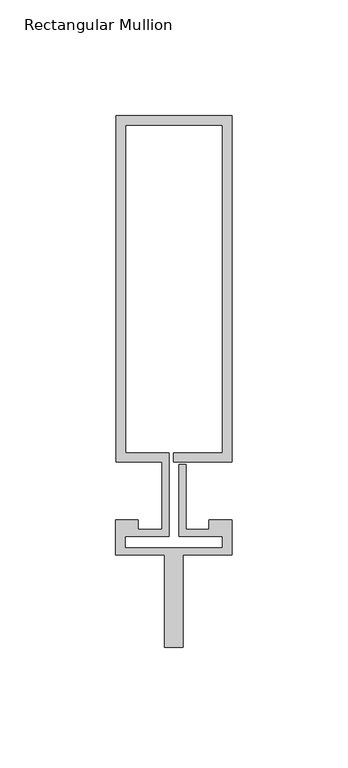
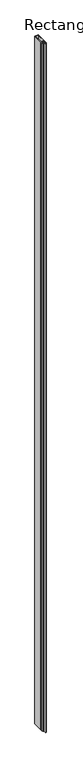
"""IFC4 building model written with IfcOpenShell, lengths in millimetres: member geometry, Rectangular Mullion : Reynaers_CW-50_Mullion-Transom_Vertical_149.5mm_Facecap-06B."""

from ifc_helpers import new_model, si_unit, frame, origin, place, context, project, spatial, polyline, outline, extrude, source, transform, mapped, element, save


def rectangular_mullion_62c5082b(model_context):
    return source(origin(), model_context, "Body", "SweptSolid", [
        extrude(outline(polyline([(-24.8004059, 162.0), (25.1995941, 162.0), (25.1995941, 12.5), (0.0, 12.5), (0.0, 16.5), (21.1995941, 16.5), (21.1995941, 158.0), (-20.8004059, 158.0), (-20.8004059, 16.5), (-1.9004059, 16.5), (-1.9004059, -19.5), (-20.994845, -19.5), (-20.994845, -24.4191338), (21.1995941, -24.4191338), (21.1995941, -19.5), (2.2995941, -19.5), (2.2995941, 11.5), (5.2995941, 11.5), (5.2995941, -16.5), (15.2996495, -16.5), (15.2996495, -12.5), (25.1995941, -12.5), (25.1995941, -27.5), (4.004855, -27.5), (4.004855, -67.5), (-3.995145, -67.5), (-3.995145, -27.5), (-24.994845, -27.5), (-24.994845, -12.5), (-15.2996495, -12.5), (-15.2996495, -16.5), (-4.9004059, -16.5), (-4.9004059, 12.5), (-24.8004059, 12.5), (-24.8004059, 162.0)])), frame((0.0, 0.0, -10400.0), z_axis=(0.0, 0.0, 1.0), x_axis=(1.0, 0.0, 0.0)), (0.0, 0.0, 1.0), 10400.0),
    ])


if __name__ == "__main__":
    model = new_model("IFC4")
    model_context = context("Model", 3, world=origin())
    ifc_project = project(units=[si_unit("LENGTHUNIT", "METRE", prefix="MILLI")], contexts=[model_context])
    site = spatial("IfcSite", under=ifc_project)
    building = spatial("IfcBuilding", under=site)
    placement = place(None, origin())
    rectangular_mullion_shape = rectangular_mullion_62c5082b(model_context)
    element("IfcMember", 1, ObjectType="Rectangular Mullion : Reynaers_CW-50_Mullion-Transom_Vertical_149.5mm_Facecap-06B", at=placement, inside=building, context=model_context, shape_type="MappedRepresentation", body=[
        mapped(rectangular_mullion_shape, transform((0.0, 0.0, 0.0), x_axis=(1.0, 0.0, 0.0), y_axis=(0.0, 1.0, 0.0), z_axis=(0.0, 0.0, 1.0))),
    ])
    save(model, "model.ifc")
